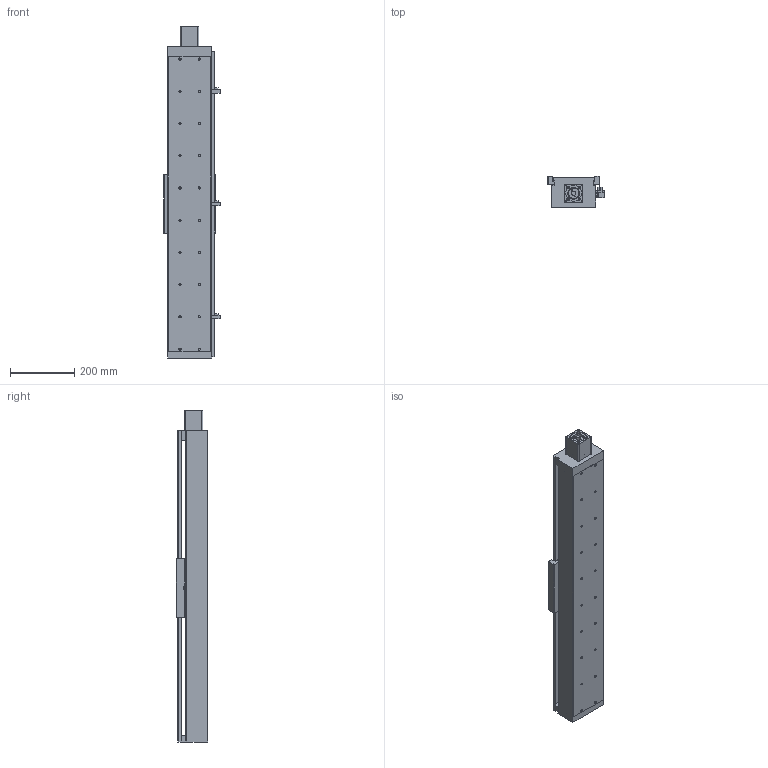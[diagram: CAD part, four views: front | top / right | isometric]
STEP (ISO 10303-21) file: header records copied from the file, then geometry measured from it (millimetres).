
FILE_DESCRIPTION((''),'2;1');
FILE_NAME('E:\libraries\UIA actuator library 2009\standard actuator\UIA136 ball screw 20\UIA136R15NDC-_ _ _-R20_ _-M60-P13-C10-S\UIA136R15NDC-700-R20_ _-M60-P13-C10-S.stp','2016-04-27T11:05:58',('h029'),(''),'Autodesk Inventor 11','Autodesk Inventor 11','');
FILE_SCHEMA(('AUTOMOTIVE_DESIGN { 1 0 10303 214 1 1 1 1 }'));
Length unit declared in the file: millimetre
Products named in the file (10): UIA136R15NDC-700; UIA136R15NDC-body; motor mount F60; SOH-32C; SOH-32C-3; SOH-32C-1; SOH-32C-2; Carriage; Sensor Switch; sensor rail
Assembly tree (9 placements, depth 3):
  UIA136R15NDC-700
    UIA136R15NDC-body
    motor mount F60
    SOH-32C
      SOH-32C-3
      SOH-32C-1
      SOH-32C-2
    Carriage
    Sensor Switch
    sensor rail
Bounding box: 174.5 x 98 x 1030 mm (x, y, z)
Volume: 3998377.4 mm3; surface area: 1087492.8 mm2
Topology: 8 solids, 8 shells, 503 faces, 1317 edges, 865 vertices
Faces by surface type: plane 311, bspline 150, cylinder 38, cone 4
Full cylindrical faces by diameter (mm): 2.459 x2, 3.242 x2, 4.5 x2, 5.5 x3, 7.5 x2, 10 x2, 12 x1, 14 x1, 32 x3, 37 x1, 41.9 x1, 42.1 x1, 43.5 x1
Entity records: 16515 total; most frequent: CARTESIAN_POINT 4946, ORIENTED_EDGE 2226, DIRECTION 2162, EDGE_CURVE 1113, VERTEX_POINT 800, VECTOR 790, LINE 790, EDGE_LOOP 769
